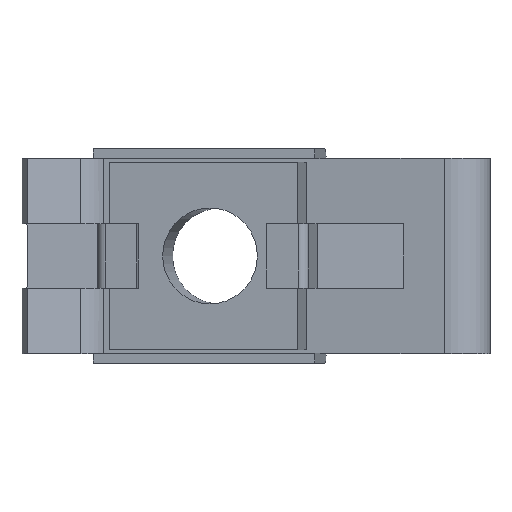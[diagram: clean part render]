
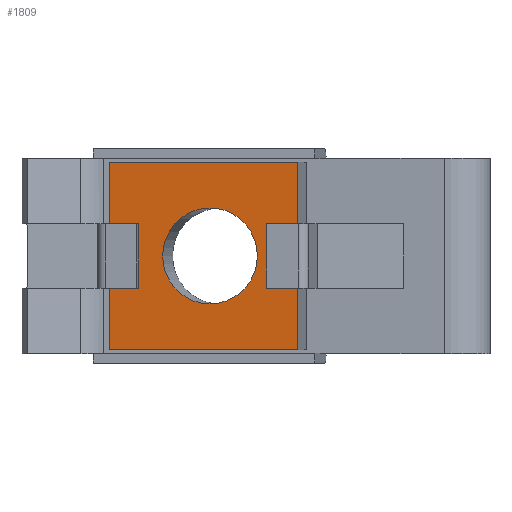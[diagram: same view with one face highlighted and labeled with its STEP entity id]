
A CAD part, top view. The second image highlights one B-rep face of the part: STEP entity #1809.
In plain terms, the highlighted planar face has unit normal (-0.159, 0, 0.987).
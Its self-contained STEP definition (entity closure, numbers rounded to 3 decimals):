
#59=CIRCLE('',#1906,2.459);
#263=ORIENTED_EDGE('',*,*,#566,.F.);
#264=ORIENTED_EDGE('',*,*,#559,.F.);
#265=ORIENTED_EDGE('',*,*,#565,.F.);
#266=ORIENTED_EDGE('',*,*,#563,.F.);
#267=ORIENTED_EDGE('',*,*,#561,.F.);
#559=EDGE_CURVE('',#716,#717,#845,.T.);
#561=EDGE_CURVE('',#717,#718,#847,.T.);
#563=EDGE_CURVE('',#718,#719,#849,.T.);
#565=EDGE_CURVE('',#719,#716,#851,.T.);
#566=EDGE_CURVE('',#720,#720,#59,.T.);
#716=VERTEX_POINT('',#2553);
#717=VERTEX_POINT('',#2555);
#718=VERTEX_POINT('',#2559);
#719=VERTEX_POINT('',#2563);
#720=VERTEX_POINT('',#2569);
#845=LINE('',#2554,#994);
#847=LINE('',#2558,#996);
#849=LINE('',#2562,#998);
#851=LINE('',#2566,#1000);
#994=VECTOR('',#2148,1000.);
#996=VECTOR('',#2152,1000.);
#998=VECTOR('',#2156,1000.);
#1000=VECTOR('',#2160,1000.);
#1093=EDGE_LOOP('',(#263));
#1094=EDGE_LOOP('',(#264,#265,#266,#267));
#1174=FACE_BOUND('',#1093,.T.);
#1175=FACE_BOUND('',#1094,.T.);
#1241=PLANE('',#1905);
#1809=ADVANCED_FACE('',(#1174,#1175),#1241,.F.);
#1905=AXIS2_PLACEMENT_3D('',#2567,#2161,#2162);
#1906=AXIS2_PLACEMENT_3D('',#2568,#2163,#2164);
#2148=DIRECTION('',(-0.987,0.,-0.159));
#2152=DIRECTION('',(0.,1.,0.));
#2156=DIRECTION('',(0.987,0.,0.159));
#2160=DIRECTION('',(0.,-1.,0.));
#2161=DIRECTION('',(0.159,0.,-0.987));
#2162=DIRECTION('',(-0.987,0.,-0.159));
#2163=DIRECTION('',(-0.159,0.,0.987));
#2164=DIRECTION('',(0.,1.,0.));
#2553=CARTESIAN_POINT('',(14.142,-4.8,5.703));
#2554=CARTESIAN_POINT('',(14.142,-4.8,5.703));
#2555=CARTESIAN_POINT('',(4.466,-4.8,4.149));
#2558=CARTESIAN_POINT('',(4.466,-4.8,4.149));
#2559=CARTESIAN_POINT('',(4.466,4.8,4.149));
#2562=CARTESIAN_POINT('',(4.466,4.8,4.149));
#2563=CARTESIAN_POINT('',(14.142,4.8,5.703));
#2566=CARTESIAN_POINT('',(14.142,4.8,5.703));
#2567=CARTESIAN_POINT('',(-0.537,0.,3.346));
#2568=CARTESIAN_POINT('',(9.641,0.,4.98));
#2569=CARTESIAN_POINT('',(9.641,2.459,4.98));
